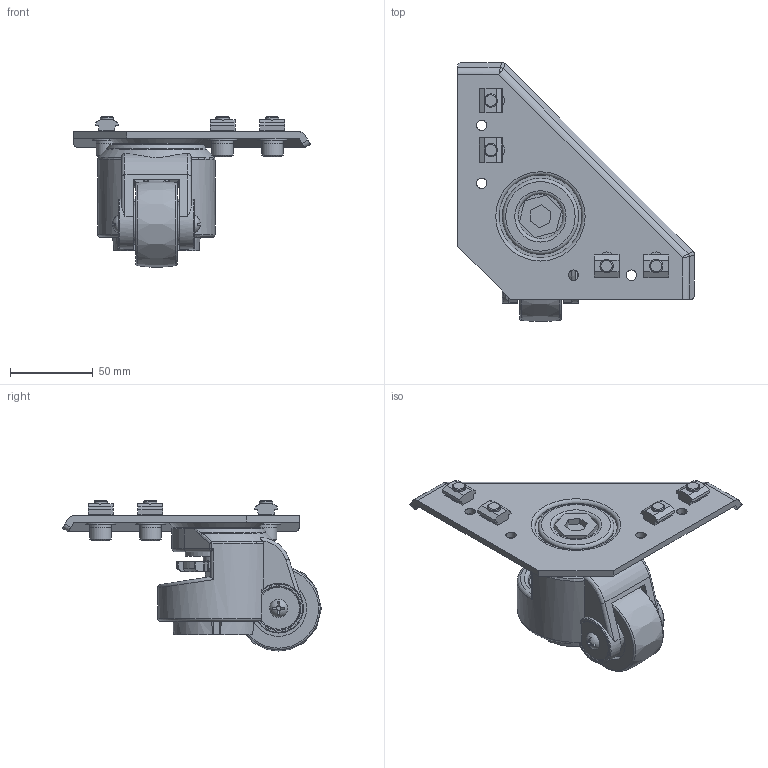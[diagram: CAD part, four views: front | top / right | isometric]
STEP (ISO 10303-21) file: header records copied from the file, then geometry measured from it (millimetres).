
FILE_DESCRIPTION(('STEP AP214'),'1');
FILE_NAME('CAAJ.stp','2021-03-19T02:32:41',(' '),(' '),'Spatial InterOp 3D',' ',' ');
FILE_SCHEMA(('automotive_design'));
Length unit declared in the file: millimetre
Products named in the file (20): CAAJ; パーツ10; パーツ13; パーツ15; パーツ16; ねじ: 丸頭 - M6.0 x 8.0; パーツ19; _____1; パーツ28; パーツ29; NF40-M8
Assembly tree (20 placements, depth 3):
  CAAJ
    パーツ10
    パーツ13
    パーツ15
    パーツ16
    ねじ: 丸頭 - M6.0 x 8.0
    ねじ: 丸頭 - M6.0 x 8.0
    パーツ19
    _____1  x2
      パーツ28
      パーツ29
      NF40-M8
    _____1
      パーツ28
      パーツ29
      NF40-M8
    _____1
      パーツ28
      パーツ29
      NF40-M8
Bounding box: 143 x 156.4 x 90.7 mm (x, y, z)
Volume: 284967.6 mm3; surface area: 94696.7 mm2
Topology: 19 solids, 19 shells, 470 faces, 1174 edges, 764 vertices
Faces by surface type: plane 279, cylinder 130, cone 24, torus 20, bspline 11, sphere 6
Full cylindrical faces by diameter (mm): 6 x2, 6.25 x4, 8 x8, 8.5 x4, 10 x2, 13 x8, 16 x1, 17.8 x4, 24 x2, 25 x1, 27 x1, 34 x2, 38 x1, 46 x1, 50 x1
Entity records: 18274 total; most frequent: CARTESIAN_POINT 4031, DIRECTION 2151, ORIENTED_EDGE 2066, EDGE_CURVE 1033, AXIS2_PLACEMENT_3D 774, VERTEX_POINT 707, LINE 603, VECTOR 603
